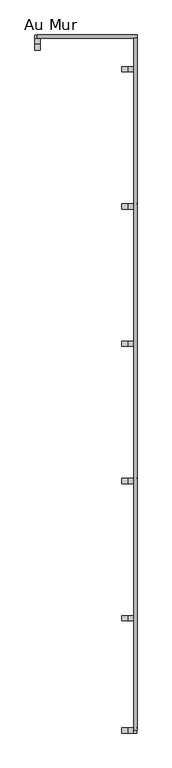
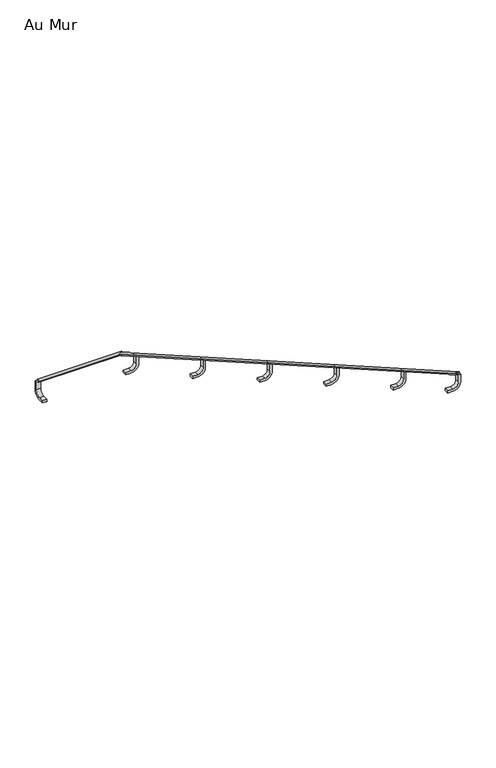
"""IFC4 building model written with IfcOpenShell, lengths in millimetres: railing geometry, Au Mur."""

import ifcopenshell
import ifcopenshell.guid

model = None  # the IFC model being written
_history = None  # IfcOwnerHistory: only IFC2X3 demands one
_inside = {}  # id of a spatial element -> (the spatial element, [elements in it])
_under = {}  # id of a project, library or spatial element -> (it, [spatial elements below it])
_declared = {}  # id of a project -> (the project, [libraries it declares])
_typed = {}  # id of a type object -> (the type object, [elements of that type])
_made_of = {}  # id of a material, layer set ... -> (it, [elements and type objects made of it])


def new_model(schema):
    """Start an empty IFC model of exactly this schema.

    Asked for "IFC4X3", IfcOpenShell would pick the latest addendum, in which some entities
    have other attributes; the version numbers below select the first issue.
    IFC2X3 requires an IfcOwnerHistory on every rooted entity: one is made here for all.
    """
    global model, _history
    if schema == "IFC4X3":
        model = ifcopenshell.file(schema_version=(4, 3, 0, 0))
    else:
        model = ifcopenshell.file(schema=schema)
    _inside.clear()
    _under.clear()
    _declared.clear()
    _typed.clear()
    _made_of.clear()
    _history = None
    if model.schema == "IFC2X3":
        org = make("IfcOrganization", Name="unknown")
        user = make(
            "IfcPersonAndOrganization",
            ThePerson=make("IfcPerson", FamilyName="unknown"),
            TheOrganization=org,
        )
        app = make(
            "IfcApplication",
            ApplicationDeveloper=org,
            Version="unknown",
            ApplicationFullName="unknown",
            ApplicationIdentifier="unknown",
        )
        _history = make(
            "IfcOwnerHistory",
            OwningUser=user,
            OwningApplication=app,
            ChangeAction="ADDED",
            CreationDate=0,
        )
    return model


def make(cls, **values):
    """One entity of the class cls with the attributes given. An attribute that is None is left unset."""
    return model.create_entity(
        cls, **{name: value for name, value in values.items() if value is not None}
    )


def rooted(cls, **values):
    """An entity with a GlobalId (a new one), such as an element, a storey or a relation."""
    return make(cls, GlobalId=ifcopenshell.guid.new(), OwnerHistory=_history, **values)


def si_unit(unit_type, name, prefix=None):
    """IfcSIUnit, for example si_unit("LENGTHUNIT", "METRE", prefix="MILLI")."""
    return make("IfcSIUnit", UnitType=unit_type, Prefix=prefix, Name=name)


def assignment(units):
    """IfcUnitAssignment: the units of a project."""
    return None if units is None else make("IfcUnitAssignment", Units=units)


def point(xyz):
    """IfcCartesianPoint."""
    return None if xyz is None else make("IfcCartesianPoint", Coordinates=xyz)


def direction(xyz):
    """IfcDirection."""
    return None if xyz is None else make("IfcDirection", DirectionRatios=xyz)


def frame(location, z_axis=None, x_axis=None):
    """IfcAxis2Placement3D, a coordinate frame: its origin and axes. An axis left out is left unset."""
    return make(
        "IfcAxis2Placement3D",
        Location=point(location),
        Axis=direction(z_axis),
        RefDirection=direction(x_axis),
    )


def frame_2d(location, x_axis=None):
    """IfcAxis2Placement2D, a coordinate frame in the plane: its origin and x axis."""
    return make(
        "IfcAxis2Placement2D", Location=point(location), RefDirection=direction(x_axis)
    )


def origin():
    """The frame at (0, 0, 0) with its axes left unset."""
    return frame((0.0, 0.0, 0.0))


def place(relative_to, where):
    """IfcLocalPlacement: puts the frame where relative to a parent placement (None: the world)."""
    return make(
        "IfcLocalPlacement", PlacementRelTo=relative_to, RelativePlacement=where
    )


def context(
    kind, dimensions, precision=None, world=None, true_north=None, identifier=None
):
    """IfcGeometricRepresentationContext, for example the 3D "Model" context."""
    return make(
        "IfcGeometricRepresentationContext",
        ContextIdentifier=identifier,
        ContextType=kind,
        CoordinateSpaceDimension=dimensions,
        Precision=precision,
        WorldCoordinateSystem=world,
        TrueNorth=true_north,
    )


def project(units=None, contexts=None):
    """IfcProject with its units and contexts."""
    return rooted(
        "IfcProject",
        Name="project",
        RepresentationContexts=contexts,
        UnitsInContext=assignment(units),
    )


def spatial(cls, under=None, at=None, **own):
    """A site, building, storey or space (cls), placed at a placement, below another one or the project."""
    s = rooted(cls, ObjectPlacement=at, **own)
    if under is not None:
        _under.setdefault(under.id(), (under, []))[1].append(s)
    return s


def polyline(points):
    """IfcPolyline through the points."""
    return make("IfcPolyline", Points=[point(p) for p in points])


def circle_curve(where, radius):
    """IfcCircle in the frame where."""
    return make("IfcCircle", Position=where, Radius=radius)


def ellipse_curve(where, semi_axis1, semi_axis2):
    """IfcEllipse in the frame where."""
    return make(
        "IfcEllipse", Position=where, SemiAxis1=semi_axis1, SemiAxis2=semi_axis2
    )


def trimmed(basis, trim1, trim2, sense, master):
    """IfcTrimmedCurve: the piece of a basis curve between two trims."""
    return make(
        "IfcTrimmedCurve",
        BasisCurve=basis,
        Trim1=trim1,
        Trim2=trim2,
        SenseAgreement=sense,
        MasterRepresentation=master,
    )


def segment(curve, same_sense, transition):
    """IfcCompositeCurveSegment."""
    return make(
        "IfcCompositeCurveSegment",
        Transition=transition,
        SameSense=same_sense,
        ParentCurve=curve,
    )


def composite_curve(segments, self_intersect=None):
    """IfcCompositeCurve: segments joined end to end."""
    return make("IfcCompositeCurve", Segments=segments, SelfIntersect=self_intersect)


def outline(outer, holes=None, kind="AREA"):
    """IfcArbitraryClosedProfileDef: a profile drawn as a closed curve; with holes, ...WithVoids."""
    if holes is None:
        return make("IfcArbitraryClosedProfileDef", ProfileType=kind, OuterCurve=outer)
    return make(
        "IfcArbitraryProfileDefWithVoids",
        ProfileType=kind,
        OuterCurve=outer,
        InnerCurves=holes,
    )


def extrude(swept, where, along, depth):
    """IfcExtrudedAreaSolid: the profile swept, set in the frame where, extruded along a direction by depth."""
    return make(
        "IfcExtrudedAreaSolid",
        SweptArea=swept,
        Position=where,
        ExtrudedDirection=direction(along),
        Depth=depth,
    )


def shape(context_of_items, identifier, shape_type, items):
    """IfcShapeRepresentation: the items that make up one representation, for example the "Body"."""
    return make(
        "IfcShapeRepresentation",
        ContextOfItems=context_of_items,
        RepresentationIdentifier=identifier,
        RepresentationType=shape_type,
        Items=items,
    )


def source(mapping_origin, context_of_items, identifier, shape_type, items):
    """IfcRepresentationMap: a shape defined once, which mapped items show again and again."""
    return make(
        "IfcRepresentationMap",
        MappingOrigin=mapping_origin,
        MappedRepresentation=shape(context_of_items, identifier, shape_type, items),
    )


def transform(
    local_origin,
    x_axis=None,
    y_axis=None,
    z_axis=None,
    scale=None,
    scale2=None,
    scale3=None,
    uniform=True,
):
    """IfcCartesianTransformationOperator3D, or its non-uniform kind. x_axis, y_axis, z_axis: its Axis1, 2, 3."""
    if uniform:
        return make(
            "IfcCartesianTransformationOperator3D",
            Axis1=direction(x_axis),
            Axis2=direction(y_axis),
            LocalOrigin=point(local_origin),
            Scale=scale,
            Axis3=direction(z_axis),
        )
    return make(
        "IfcCartesianTransformationOperator3DnonUniform",
        Axis1=direction(x_axis),
        Axis2=direction(y_axis),
        LocalOrigin=point(local_origin),
        Scale=scale,
        Axis3=direction(z_axis),
        Scale2=scale2,
        Scale3=scale3,
    )


def mapped(mapping_source, mapping_target):
    """IfcMappedItem: shows the shape of a source again, moved by a transform."""
    return make(
        "IfcMappedItem", MappingSource=mapping_source, MappingTarget=mapping_target
    )


def made_of(thing, what):
    """Note that an element or type object is made of a material, layer set ...; save() writes the relation."""
    if what is not None:
        _made_of.setdefault(what.id(), (what, []))[1].append(thing)
    return thing


def element(
    cls,
    number,
    at=None,
    inside=None,
    cuts=None,
    type_object=None,
    material=None,
    context=None,
    identifier="Body",
    shape_type=None,
    held_by="IfcProductDefinitionShape",
    body=None,
    shapes=None,
    **own,
):
    """One element of the class cls, such as IfcWall. Its Tag is "e" and its number.

    at: its placement. inside: the storey or other place that contains it. cuts: it is an
    opening in that element (IfcRelVoidsElement). A single representation is given by context,
    identifier, shape_type and body (its items); several are given by shapes. held_by: the class
    of the entity that holds the representations. save() writes the other relations.
    """
    e = rooted(cls, Tag="e%d" % number, ObjectPlacement=at, **own)
    if body is not None:
        shapes = [shape(context, identifier, shape_type, body)]
    if shapes is not None:
        e.Representation = make(held_by, Representations=shapes)
    if inside is not None:
        _inside.setdefault(inside.id(), (inside, []))[1].append(e)
    if cuts is not None:
        rooted(
            "IfcRelVoidsElement", RelatingBuildingElement=cuts, RelatedOpeningElement=e
        )
    if type_object is not None:
        _typed.setdefault(type_object.id(), (type_object, []))[1].append(e)
    return made_of(e, material)


def aggregate(whole, parts):
    """IfcRelAggregates: a whole, such as a stair, and the parts it consists of."""
    return rooted("IfcRelAggregates", RelatingObject=whole, RelatedObjects=parts)


def save(model, path):
    """Write the relations noted so far, then the file.

    IfcRelAggregates (storeys below a building ...), IfcRelContainedInSpatialStructure (elements
    in a storey), IfcRelDefinesByType, IfcRelAssociatesMaterial and IfcRelDeclares: one each for
    every whole, place, type object, material and project.
    """
    for whole, parts in _under.values():
        aggregate(whole, parts)
    for where, things in _inside.values():
        rooted(
            "IfcRelContainedInSpatialStructure",
            RelatedElements=things,
            RelatingStructure=where,
        )
    for kind, things in _typed.values():
        rooted("IfcRelDefinesByType", RelatedObjects=things, RelatingType=kind)
    for what, things in _made_of.values():
        rooted("IfcRelAssociatesMaterial", RelatedObjects=things, RelatingMaterial=what)
    for by, libraries in _declared.values():
        rooted("IfcRelDeclares", RelatingContext=by, RelatedDefinitions=libraries)
    model.write(path)


def plane_surface(at):
    """IfcPlane: the flat surface through the origin of the frame at, square to its z axis."""
    return make("IfcPlane", Position=at)


def cylinder_surface(at, radius):
    """IfcCylindricalSurface: all points at the distance radius from the z axis of the frame at."""
    return make("IfcCylindricalSurface", Position=at, Radius=radius)


def advanced_brep(points, edges, surfaces, faces):
    """IfcAdvancedBrep: a solid bounded by faces that lie on surfaces and meet in shared edges.

    An edge is (start, end): straight between two places in points (the first is 0);
    or (start, end, curve); or (start, end, curve, False) where it runs against its curve.
    A face is (place in surfaces, loops), or (place, loops, False) where it looks against
    its surface's normal. A loop lists edges by number (the first is 1), with a minus sign
    where the edge is run from its end to its start. The first loop is the outer one.
    """
    corners = [point(p) for p in points]
    vertices = [make("IfcVertexPoint", VertexGeometry=c) for c in corners]
    made = []
    for start, end, *more in edges:
        made.append(
            make(
                "IfcEdgeCurve",
                EdgeStart=vertices[start],
                EdgeEnd=vertices[end],
                EdgeGeometry=more[0] if more else make("IfcPolyline", Points=[corners[start], corners[end]]),
                SameSense=more[1] if len(more) > 1 else True,
            )
        )
    hull = []
    for where, loops, *sense in faces:
        bounds = []
        for j, loop in enumerate(loops):
            ring = [make("IfcOrientedEdge", EdgeElement=made[abs(k) - 1], Orientation=k > 0) for k in loop]
            bounds.append(
                make(
                    "IfcFaceOuterBound" if j == 0 else "IfcFaceBound",
                    Bound=make("IfcEdgeLoop", EdgeList=ring),
                    Orientation=True,
                )
            )
        hull.append(make("IfcAdvancedFace", Bounds=bounds, FaceSurface=surfaces[where], SameSense=sense[0] if sense else True))
    return make("IfcAdvancedBrep", Outer=make("IfcClosedShell", CfsFaces=hull))


def au_mur_04ebbb3a(model_context):
    return source(origin(), model_context, "Body", "SolidModel", [
        advanced_brep(
        [(9158.6466393, 5339.524191, 914.8013227), (9138.6466393, 5339.524191, 914.8013227), (9158.6466393, 1305.4265057, 3220.0), (9138.6466393, 1305.4265057, 3220.0)],
        [
            (0, 1, ellipse_curve(frame((9148.6466393, 5339.524191, 914.8013227), z_axis=(0.0, 1.0, 0.0), x_axis=(0.0, 0.0, -0.9999999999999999)), 11.5175111, 10.0)),
            (1, 0, ellipse_curve(frame((9148.6466393, 5339.524191, 914.8013227), z_axis=(0.0, 1.0, 0.0), x_axis=(0.0, 0.0, -0.9999999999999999)), 11.5175111, 10.0)),
            (2, 3, ellipse_curve(frame((9148.6466393, 1305.4265057, 3220.0), z_axis=(0.0, -1.0, 0.0), x_axis=(0.0, 0.0, -0.9999999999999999)), 11.5175111, 10.0)),
            (3, 2, ellipse_curve(frame((9148.6466393, 1305.4265057, 3220.0), z_axis=(0.0, -1.0, 0.0), x_axis=(0.0, 0.0, -0.9999999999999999)), 11.5175111, 10.0)),
            (0, 2),
            (3, 1),
        ],
        [
            plane_surface(frame((9148.6466393, 5339.524191, 914.8013227), z_axis=(0.0, 1.0, 0.0), x_axis=(0.0, 0.0, -1.0))),
            plane_surface(frame((9148.6466393, 1305.4265057, 3220.0), z_axis=(0.0, -1.0, 0.0), x_axis=(0.0, 0.0, -1.0))),
            cylinder_surface(frame((9148.6466393, 5339.524191, 914.8013227), z_axis=(0.0, 0.8682431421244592, -0.4961389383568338), x_axis=(-1.0, 0.0, 0.0)), 10.0),
        ],
        [
            (0, [[1, 2]]),
            (1, [[3, 4]]),
            (2, [[-1, 5, -4, 6]]),
            (2, [[-2, -6, -3, -5]]),
        ],
    ),
        advanced_brep(
        [(8578.2466393, 5359.524191, 912.1727513), (8578.2466393, 5339.524191, 912.1727513), (9158.6466393, 5359.524191, 912.1727513), (9158.6466393, 5339.524191, 912.1727513)],
        [
            (0, 1, circle_curve(frame((8578.2466393, 5349.524191, 912.1727513), z_axis=(-1.0, 0.0, 0.0), x_axis=(0.0, -1.0, 0.0)), 10.0)),
            (1, 0, circle_curve(frame((8578.2466393, 5349.524191, 912.1727513), z_axis=(-1.0, 0.0, 0.0), x_axis=(0.0, -1.0, 0.0)), 10.0)),
            (2, 3, circle_curve(frame((9158.6466393, 5349.524191, 912.1727513), z_axis=(1.0, 0.0, 0.0), x_axis=(0.0, -1.0, 0.0)), 10.0)),
            (3, 2, circle_curve(frame((9158.6466393, 5349.524191, 912.1727513), z_axis=(1.0, 0.0, 0.0), x_axis=(0.0, -1.0, 0.0)), 10.0)),
            (0, 2),
            (3, 1),
        ],
        [
            plane_surface(frame((8578.2466393, 5349.524191, 912.1727513), z_axis=(-1.0, 0.0, 0.0), x_axis=(0.0, 1.0, 0.0))),
            plane_surface(frame((9158.6466393, 5349.524191, 912.1727513), z_axis=(1.0, 0.0, 0.0), x_axis=(0.0, 1.0, 0.0))),
            cylinder_surface(frame((8578.2466393, 5349.524191, 912.1727513), z_axis=(-1.0, 0.0, 0.0), x_axis=(0.0, -1.0, 0.0)), 10.0),
        ],
        [
            (0, [[1, 2]]),
            (1, [[3, 4]]),
            (2, [[-1, 5, -4, 6]]),
            (2, [[-2, -6, -3, -5]]),
        ],
    ),
        extrude(outline(composite_curve([segment(polyline([(2754.0013227, 9068.6466393), (2738.0013227, 9068.6466393), (2738.0013227, 9103.6466393)]), True, "CONTINUOUS"), segment(trimmed(circle_curve(frame_2d((2791.0013227, 9103.6466393)), 53.0), [point((2738.0013227, 9103.6466393))], [point((2791.0013227, 9156.6466393))], False, "CARTESIAN"), True, "CONTINUOUS"), segment(polyline([(2791.0013227, 9156.6466393), (2846.0013227, 9156.6466393), (2846.0013227, 9140.6466393), (2791.0013227, 9140.6466393)]), True, "CONTINUOUS"), segment(trimmed(circle_curve(frame_2d((2791.0013227, 9103.6466393)), 37.0), [point((2791.0013227, 9140.6466393))], [point((2754.0013227, 9103.6466393))], True, "CARTESIAN"), True, "CONTINUOUS"), segment(polyline([(2754.0013227, 9103.6466393), (2754.0013227, 9068.6466393)]), True, "CONTINUOUS")], self_intersect=False)), frame((0.0, 1944.924191, 0.0), z_axis=(0.0, 1.0, 0.0), x_axis=(0.0, 0.0, 1.0)), (0.0, 0.0, 1.0), 30.0),
        extrude(outline(composite_curve([segment(polyline([(2296.8584655, 9068.6466393), (2280.8584655, 9068.6466393), (2280.8584655, 9103.6466393)]), True, "CONTINUOUS"), segment(trimmed(circle_curve(frame_2d((2333.8584655, 9103.6466393)), 53.0), [point((2280.8584655, 9103.6466393))], [point((2333.8584655, 9156.6466393))], False, "CARTESIAN"), True, "CONTINUOUS"), segment(polyline([(2333.8584655, 9156.6466393), (2388.8584655, 9156.6466393), (2388.8584655, 9140.6466393), (2333.8584655, 9140.6466393)]), True, "CONTINUOUS"), segment(trimmed(circle_curve(frame_2d((2333.8584655, 9103.6466393)), 37.0), [point((2333.8584655, 9140.6466393))], [point((2296.8584655, 9103.6466393))], True, "CARTESIAN"), True, "CONTINUOUS"), segment(polyline([(2296.8584655, 9103.6466393), (2296.8584655, 9068.6466393)]), True, "CONTINUOUS")], self_intersect=False)), frame((0.0, 2744.924191, 0.0), z_axis=(0.0, 1.0, 0.0), x_axis=(0.0, 0.0, 1.0)), (0.0, 0.0, 1.0), 30.0),
        extrude(outline(composite_curve([segment(polyline([(1839.7156084, 9068.6466393), (1823.7156084, 9068.6466393), (1823.7156084, 9103.6466393)]), True, "CONTINUOUS"), segment(trimmed(circle_curve(frame_2d((1876.7156084, 9103.6466393)), 53.0), [point((1823.7156084, 9103.6466393))], [point((1876.7156084, 9156.6466393))], False, "CARTESIAN"), True, "CONTINUOUS"), segment(polyline([(1876.7156084, 9156.6466393), (1931.7156084, 9156.6466393), (1931.7156084, 9140.6466393), (1876.7156084, 9140.6466393)]), True, "CONTINUOUS"), segment(trimmed(circle_curve(frame_2d((1876.7156084, 9103.6466393)), 37.0), [point((1876.7156084, 9140.6466393))], [point((1839.7156084, 9103.6466393))], True, "CARTESIAN"), True, "CONTINUOUS"), segment(polyline([(1839.7156084, 9103.6466393), (1839.7156084, 9068.6466393)]), True, "CONTINUOUS")], self_intersect=False)), frame((0.0, 3544.924191, 0.0), z_axis=(0.0, 1.0, 0.0), x_axis=(0.0, 0.0, 1.0)), (0.0, 0.0, 1.0), 30.0),
        extrude(outline(composite_curve([segment(polyline([(1382.5727513, 9068.6466393), (1366.5727513, 9068.6466393), (1366.5727513, 9103.6466393)]), True, "CONTINUOUS"), segment(trimmed(circle_curve(frame_2d((1419.5727513, 9103.6466393)), 53.0), [point((1366.5727513, 9103.6466393))], [point((1419.5727513, 9156.6466393))], False, "CARTESIAN"), True, "CONTINUOUS"), segment(polyline([(1419.5727513, 9156.6466393), (1474.5727513, 9156.6466393), (1474.5727513, 9140.6466393), (1419.5727513, 9140.6466393)]), True, "CONTINUOUS"), segment(trimmed(circle_curve(frame_2d((1419.5727513, 9103.6466393)), 37.0), [point((1419.5727513, 9140.6466393))], [point((1382.5727513, 9103.6466393))], True, "CARTESIAN"), True, "CONTINUOUS"), segment(polyline([(1382.5727513, 9103.6466393), (1382.5727513, 9068.6466393)]), True, "CONTINUOUS")], self_intersect=False)), frame((0.0, 4344.924191, 0.0), z_axis=(0.0, 1.0, 0.0), x_axis=(0.0, 0.0, 1.0)), (0.0, 0.0, 1.0), 30.0),
        extrude(outline(composite_curve([segment(polyline([(925.4298941, 9068.6466393), (909.4298941, 9068.6466393), (909.4298941, 9103.6466393)]), True, "CONTINUOUS"), segment(trimmed(circle_curve(frame_2d((962.4298941, 9103.6466393)), 53.0), [point((909.4298941, 9103.6466393))], [point((962.4298941, 9156.6466393))], False, "CARTESIAN"), True, "CONTINUOUS"), segment(polyline([(962.4298941, 9156.6466393), (1017.4298941, 9156.6466393), (1017.4298941, 9140.6466393), (962.4298941, 9140.6466393)]), True, "CONTINUOUS"), segment(trimmed(circle_curve(frame_2d((962.4298941, 9103.6466393)), 37.0), [point((962.4298941, 9140.6466393))], [point((925.4298941, 9103.6466393))], True, "CARTESIAN"), True, "CONTINUOUS"), segment(polyline([(925.4298941, 9103.6466393), (925.4298941, 9068.6466393)]), True, "CONTINUOUS")], self_intersect=False)), frame((0.0, 5144.924191, 0.0), z_axis=(0.0, 1.0, 0.0), x_axis=(0.0, 0.0, 1.0)), (0.0, 0.0, 1.0), 30.0),
        extrude(outline(composite_curve([segment(polyline([(3128.0, 9068.6466393), (3112.0, 9068.6466393), (3112.0, 9103.6466393)]), True, "CONTINUOUS"), segment(trimmed(circle_curve(frame_2d((3165.0, 9103.6466393)), 53.0), [point((3112.0, 9103.6466393))], [point((3165.0, 9156.6466393))], False, "CARTESIAN"), True, "CONTINUOUS"), segment(polyline([(3165.0, 9156.6466393), (3220.0, 9156.6466393), (3220.0, 9140.6466393), (3165.0, 9140.6466393)]), True, "CONTINUOUS"), segment(trimmed(circle_curve(frame_2d((3165.0, 9103.6466393)), 37.0), [point((3165.0, 9140.6466393))], [point((3128.0, 9103.6466393))], True, "CARTESIAN"), True, "CONTINUOUS"), segment(polyline([(3128.0, 9103.6466393), (3128.0, 9068.6466393)]), True, "CONTINUOUS")], self_intersect=False)), frame((0.0, 1290.4265057, 0.0), z_axis=(0.0, 1.0, 0.0), x_axis=(0.0, 0.0, 1.0)), (0.0, 0.0, 1.0), 30.0),
        extrude(outline(composite_curve([segment(polyline([(5269.524191, 804.1727513), (5269.524191, 820.1727513), (5304.524191, 820.1727513)]), True, "CONTINUOUS"), segment(trimmed(circle_curve(frame_2d((5304.524191, 857.1727513)), 37.0), [point((5304.524191, 820.1727513))], [point((5341.524191, 857.1727513))], True, "CARTESIAN"), True, "CONTINUOUS"), segment(polyline([(5341.524191, 857.1727513), (5341.524191, 912.1727513), (5357.524191, 912.1727513), (5357.524191, 857.1727513)]), True, "CONTINUOUS"), segment(trimmed(circle_curve(frame_2d((5304.524191, 857.1727513)), 53.0), [point((5357.524191, 857.1727513))], [point((5304.524191, 804.1727513))], False, "CARTESIAN"), True, "CONTINUOUS"), segment(polyline([(5304.524191, 804.1727513), (5269.524191, 804.1727513)]), True, "CONTINUOUS")], self_intersect=False)), frame((8563.2466393, 0.0, 0.0), z_axis=(1.0, 0.0, 0.0), x_axis=(0.0, 1.0, 0.0)), (0.0, 0.0, 1.0), 30.0),
    ])


if __name__ == "__main__":
    model = new_model("IFC4")
    model_context = context("Model", 3, world=origin())
    ifc_project = project(units=[si_unit("LENGTHUNIT", "METRE", prefix="MILLI")], contexts=[model_context])
    site = spatial("IfcSite", under=ifc_project)
    building = spatial("IfcBuilding", under=site)
    placement = place(None, origin())
    au_mur_shape = au_mur_04ebbb3a(model_context)
    element("IfcRailing", 1, ObjectType="Au Mur", at=placement, inside=building, context=model_context, shape_type="MappedRepresentation", body=[
        mapped(au_mur_shape, transform((0.0, 0.0, 0.0), x_axis=(1.0, 0.0, 0.0), y_axis=(0.0, 1.0, 0.0), z_axis=(0.0, 0.0, 1.0))),
    ])
    save(model, "model.ifc")
